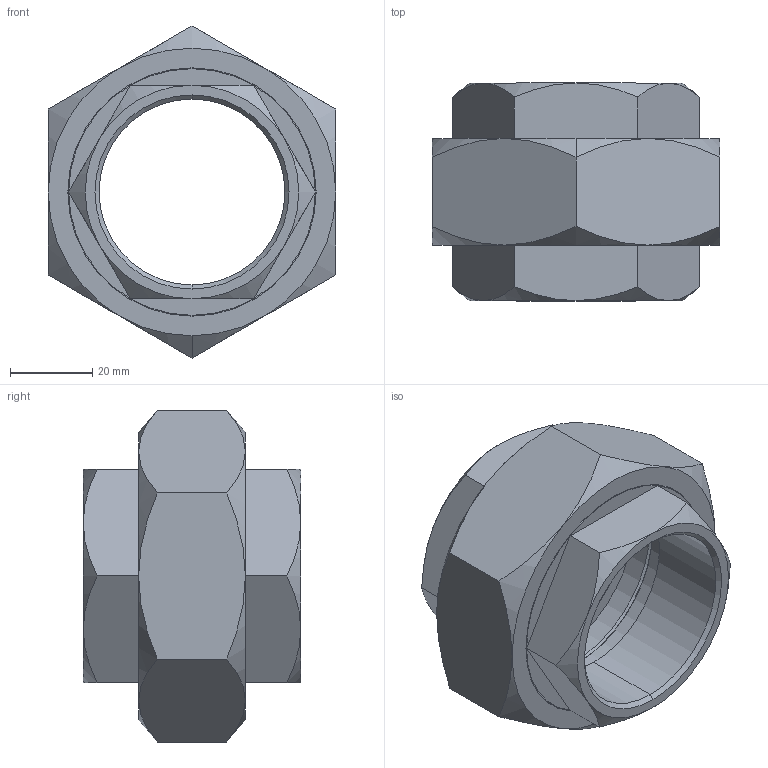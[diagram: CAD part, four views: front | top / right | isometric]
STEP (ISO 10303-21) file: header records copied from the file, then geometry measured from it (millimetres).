
FILE_DESCRIPTION (( 'STEP AP203' ), '1' );
FILE_NAME ('AXH14 B8B8 00.STEP', '2018-11-17T14:36:02', ( '' ), ( '' ), 'SwSTEP 2.0', 'SolidWorks 2013', '' );
FILE_SCHEMA (( 'CONFIG_CONTROL_DESIGN' ));
Length unit declared in the file: millimetre
Products named in the file (1): AXH14 B8B8 00
Bounding box: 70 x 53 x 80.83 mm (x, y, z)
Volume: 80956.7 mm3; surface area: 25705.5 mm2
Topology: 1 solids, 1 shells, 88 faces, 180 edges, 100 vertices
Faces by surface type: plane 38, cone 34, cylinder 16
Entity records: 2717 total; most frequent: CARTESIAN_POINT 841, DIRECTION 386, ORIENTED_EDGE 360, EDGE_CURVE 180, AXIS2_PLACEMENT_3D 165, VERTEX_POINT 100, EDGE_LOOP 96, FACE_OUTER_BOUND 88
